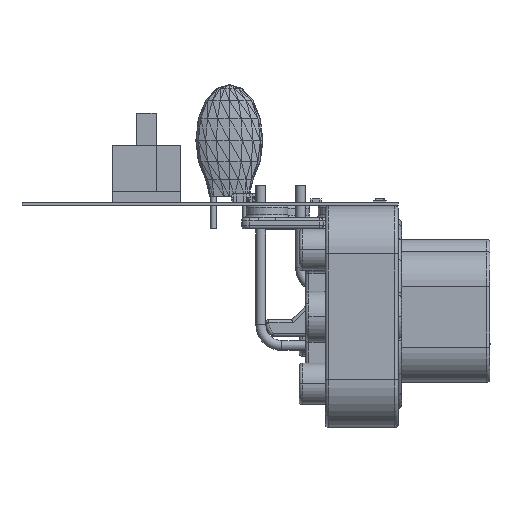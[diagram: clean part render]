
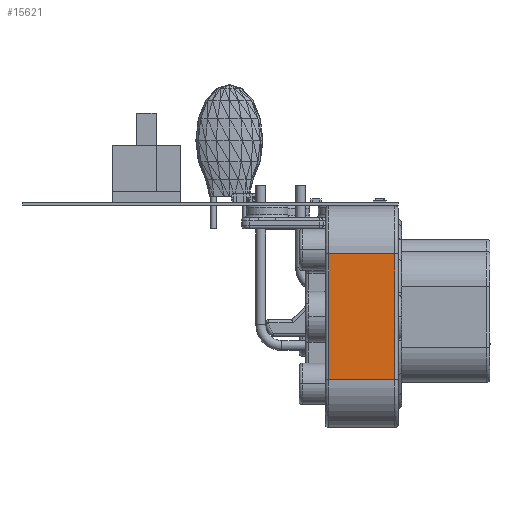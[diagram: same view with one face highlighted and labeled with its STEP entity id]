
A CAD part, front view. The second image highlights one B-rep face of the part: STEP entity #15621.
In plain terms, the highlighted planar face has unit normal (0, -1, 0).
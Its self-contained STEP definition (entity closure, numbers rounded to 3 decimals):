
#11273 = VERTEX_POINT('',#11274);
#11274 = CARTESIAN_POINT('',(48.768,0.318,
    -28.199));
#11298 = EDGE_CURVE('',#11273,#11299,#11301,.T.);
#11299 = VERTEX_POINT('',#11300);
#11300 = CARTESIAN_POINT('',(48.768,0.318,
    -8.184));
#11301 = LINE('',#11302,#11303);
#11302 = CARTESIAN_POINT('',(48.768,0.318,
    -28.199));
#11303 = VECTOR('',#11304,1.);
#11304 = DIRECTION('',(0.,0.,1.));
#11411 = EDGE_CURVE('',#11412,#11299,#11414,.T.);
#11412 = VERTEX_POINT('',#11413);
#11413 = CARTESIAN_POINT('',(59.309,0.318,
    -8.184));
#11414 = LINE('',#11415,#11416);
#11415 = CARTESIAN_POINT('',(59.309,0.318,
    -8.184));
#11416 = VECTOR('',#11417,1.);
#11417 = DIRECTION('',(-1.,0.,0.));
#15602 = VERTEX_POINT('',#15603);
#15603 = CARTESIAN_POINT('',(59.309,0.318,
    -28.199));
#15610 = EDGE_CURVE('',#11273,#15602,#15611,.T.);
#15611 = LINE('',#15612,#15613);
#15612 = CARTESIAN_POINT('',(48.768,0.318,
    -28.199));
#15613 = VECTOR('',#15614,1.);
#15614 = DIRECTION('',(1.,0.,0.));
#15621 = ADVANCED_FACE('',(#15622),#15633,.T.);
#15622 = FACE_BOUND('',#15623,.T.);
#15623 = EDGE_LOOP('',(#15624,#15625,#15631,#15632));
#15624 = ORIENTED_EDGE('',*,*,#15610,.T.);
#15625 = ORIENTED_EDGE('',*,*,#15626,.F.);
#15626 = EDGE_CURVE('',#11412,#15602,#15627,.T.);
#15627 = LINE('',#15628,#15629);
#15628 = CARTESIAN_POINT('',(59.309,0.318,
    -8.184));
#15629 = VECTOR('',#15630,1.);
#15630 = DIRECTION('',(0.,0.,-1.));
#15631 = ORIENTED_EDGE('',*,*,#11411,.T.);
#15632 = ORIENTED_EDGE('',*,*,#11298,.F.);
#15633 = PLANE('',#15634);
#15634 = AXIS2_PLACEMENT_3D('',#15635,#15636,#15637);
#15635 = CARTESIAN_POINT('',(59.588,0.318,
    -28.199));
#15636 = DIRECTION('',(0.,-1.,0.));
#15637 = DIRECTION('',(0.,0.,-1.));
